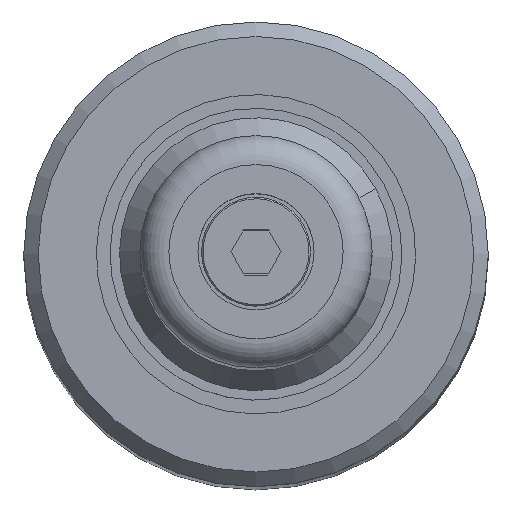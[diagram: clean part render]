
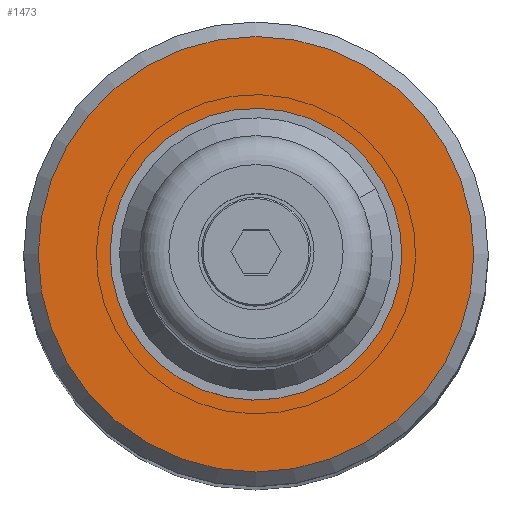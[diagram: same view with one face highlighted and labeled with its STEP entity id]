
A CAD part, top view. The second image highlights one B-rep face of the part: STEP entity #1473.
In plain terms, the highlighted planar face has unit normal (0, 0, 1).
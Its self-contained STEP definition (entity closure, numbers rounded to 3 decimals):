
#1453 = VERTEX_POINT('',#1454);
#1454 = CARTESIAN_POINT('',(15.,0.,138.));
#1462 = EDGE_CURVE('',#1453,#1453,#1463,.T.);
#1463 = CIRCLE('',#1464,15.);
#1464 = AXIS2_PLACEMENT_3D('',#1465,#1466,#1467);
#1465 = CARTESIAN_POINT('',(0.,0.,138.));
#1466 = DIRECTION('',(0.,0.,1.));
#1467 = DIRECTION('',(1.,0.,0.));
#1473 = ADVANCED_FACE('',(#1474),#1477,.T.);
#1474 = FACE_BOUND('',#1475,.T.);
#1475 = EDGE_LOOP('',(#1476));
#1476 = ORIENTED_EDGE('',*,*,#1462,.T.);
#1477 = PLANE('',#1478);
#1478 = AXIS2_PLACEMENT_3D('',#1479,#1480,#1481);
#1479 = CARTESIAN_POINT('',(0.,0.,138.));
#1480 = DIRECTION('',(0.,0.,1.));
#1481 = DIRECTION('',(1.,0.,0.));
